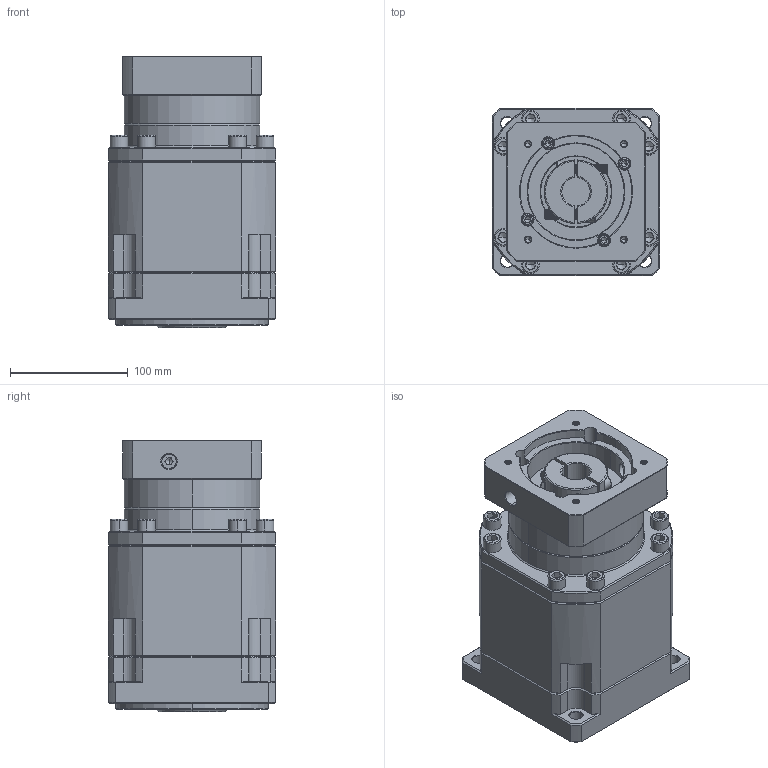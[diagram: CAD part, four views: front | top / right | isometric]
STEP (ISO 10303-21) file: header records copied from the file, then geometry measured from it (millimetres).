
FILE_DESCRIPTION (( 'STEP AP214' ), '1' );
FILE_NAME ('ZB142A-K35-L3-24-95-115-M6.step', '2023-03-18T07:09:46', ( '' ), ( '' ), 'SwSTEP 2.0', 'SolidWorks 2016', '' );
FILE_SCHEMA (( 'AUTOMOTIVE_DESIGN' ));
Length unit declared in the file: millimetre
Products named in the file (1): ZB142A-K35-L3-24-95-115-M6
Bounding box: 142 x 142 x 230.7 mm (x, y, z)
Volume: 3451949.1 mm3; surface area: 245174 mm2
Topology: 6 solids, 6 shells, 2222 faces, 5744 edges, 3638 vertices
Faces by surface type: plane 1018, cylinder 452, cone 396, bspline 320, torus 36
Entity records: 113228 total; most frequent: CARTESIAN_POINT 36991, ORIENTED_EDGE 11384, DIRECTION 9729, EDGE_CURVE 5692, VERTEX_POINT 3638, VECTOR 3533, LINE 3533, AXIS2_PLACEMENT_3D 3098
